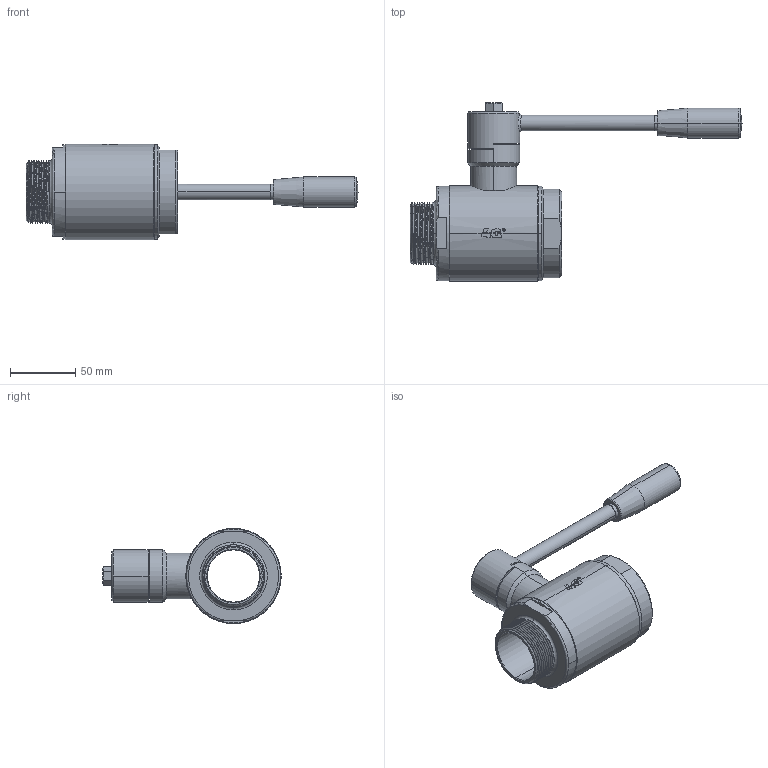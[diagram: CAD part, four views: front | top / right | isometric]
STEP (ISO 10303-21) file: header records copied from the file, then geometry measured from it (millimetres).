
FILE_DESCRIPTION((''),'2;1');
FILE_NAME('10010963410_SW0004','2025-03-24T15:09:16',('tecnico2'),('CDM Tecnoconsulting'),'CREO PARAMETRIC BY PTC INC, 2024063','CREO PARAMETRIC BY PTC INC, 2024063','');
FILE_SCHEMA(('CONFIG_CONTROL_DESIGN','SHAPE_APPEARANCE_LAYERS_GROUPS'));
Products named in the file (1): 10010963410_SW0004
Bounding box: 254 x 136.5 x 73 mm (x, y, z)
Volume: 343769.9 mm3; surface area: 103481.2 mm2
Topology: 1 solids, 1 shells, 878 faces, 2433 edges, 1559 vertices
Faces by surface type: plane 375, cylinder 192, extrusion 111, cone 90, bspline 82, torus 22, sphere 6
Entity records: 68213 total; most frequent: CARTESIAN_POINT 37494, ORIENTED_EDGE 4830, DIRECTION 3586, PRESENTATION_STYLE_ASSIGNMENT 2787, STYLED_ITEM 2471, CURVE_STYLE 2470, EDGE_CURVE 2415, VERTEX_POINT 1559
